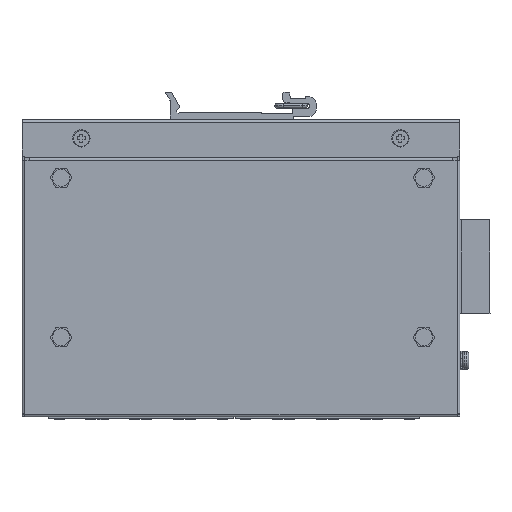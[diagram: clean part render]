
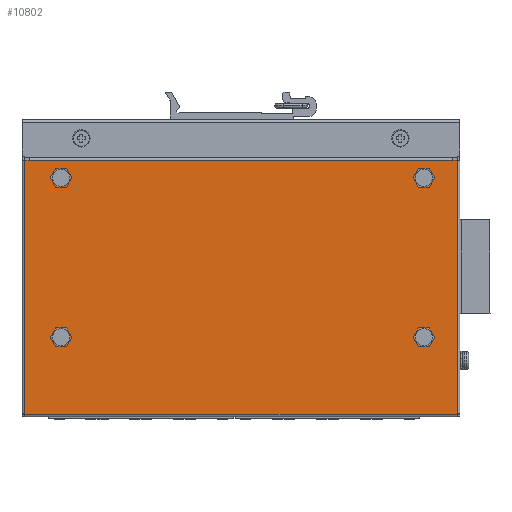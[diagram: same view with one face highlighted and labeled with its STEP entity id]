
A CAD part, front view. The second image highlights one B-rep face of the part: STEP entity #10802.
In plain terms, the highlighted planar face has unit normal (0, -1, 0).
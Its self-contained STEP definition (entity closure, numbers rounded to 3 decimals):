
#5636=DIRECTION('',(0.,0.,-1.));
#5637=VECTOR('',#5636,81.);
#5638=CARTESIAN_POINT('',(-69.2,0.,35.));
#5639=LINE('',#5638,#5637);
#5644=DIRECTION('',(1.,0.,0.));
#5645=VECTOR('',#5644,1.5);
#5646=CARTESIAN_POINT('',(-69.2,0.,35.));
#5647=LINE('',#5646,#5645);
#5648=DIRECTION('',(1.,0.,0.));
#5649=VECTOR('',#5648,1.5);
#5650=CARTESIAN_POINT('',(67.7,0.,35.));
#5651=LINE('',#5650,#5649);
#5652=DIRECTION('',(0.,0.,-1.));
#5653=VECTOR('',#5652,0.2);
#5654=CARTESIAN_POINT('',(69.2,0.,-46.));
#5655=LINE('',#5654,#5653);
#5656=DIRECTION('',(0.,0.,1.));
#5657=VECTOR('',#5656,0.2);
#5658=CARTESIAN_POINT('',(-69.2,0.,-46.2));
#5659=LINE('',#5658,#5657);
#5660=CARTESIAN_POINT('',(-57.5,0.,-21.6));
#5661=DIRECTION('',(0.,-1.,0.));
#5662=DIRECTION('',(0.,0.,-1.));
#5663=AXIS2_PLACEMENT_3D('',#5660,#5661,#5662);
#5665=CARTESIAN_POINT('',(-57.5,0.,-21.6));
#5666=DIRECTION('',(0.,-1.,0.));
#5667=DIRECTION('',(0.,0.,1.));
#5668=AXIS2_PLACEMENT_3D('',#5665,#5666,#5667);
#5670=CARTESIAN_POINT('',(-57.5,0.,29.4));
#5671=DIRECTION('',(0.,-1.,0.));
#5672=DIRECTION('',(0.,0.,-1.));
#5673=AXIS2_PLACEMENT_3D('',#5670,#5671,#5672);
#5675=CARTESIAN_POINT('',(-57.5,0.,29.4));
#5676=DIRECTION('',(0.,-1.,0.));
#5677=DIRECTION('',(0.,0.,1.));
#5678=AXIS2_PLACEMENT_3D('',#5675,#5676,#5677);
#5680=CARTESIAN_POINT('',(58.5,0.,-21.6));
#5681=DIRECTION('',(0.,-1.,0.));
#5682=DIRECTION('',(0.,0.,-1.));
#5683=AXIS2_PLACEMENT_3D('',#5680,#5681,#5682);
#5685=CARTESIAN_POINT('',(58.5,0.,-21.6));
#5686=DIRECTION('',(0.,-1.,0.));
#5687=DIRECTION('',(0.,0.,1.));
#5688=AXIS2_PLACEMENT_3D('',#5685,#5686,#5687);
#5690=CARTESIAN_POINT('',(58.5,0.,29.4));
#5691=DIRECTION('',(0.,-1.,0.));
#5692=DIRECTION('',(0.,0.,-1.));
#5693=AXIS2_PLACEMENT_3D('',#5690,#5691,#5692);
#5695=CARTESIAN_POINT('',(58.5,0.,29.4));
#5696=DIRECTION('',(0.,-1.,0.));
#5697=DIRECTION('',(0.,0.,1.));
#5698=AXIS2_PLACEMENT_3D('',#5695,#5696,#5697);
#5792=DIRECTION('',(0.,0.,1.));
#5793=VECTOR('',#5792,81.);
#5794=CARTESIAN_POINT('',(69.2,0.,-46.));
#5795=LINE('',#5794,#5793);
#6228=DIRECTION('',(-1.,0.,0.));
#6229=VECTOR('',#6228,135.4);
#6230=CARTESIAN_POINT('',(67.7,0.,35.));
#6231=LINE('',#6230,#6229);
#7641=DIRECTION('',(1.,0.,0.));
#7642=VECTOR('',#7641,138.4);
#7643=CARTESIAN_POINT('',(-69.2,0.,-46.2));
#7644=LINE('',#7643,#7642);
#9410=CARTESIAN_POINT('',(-69.2,0.,-46.));
#9412=VERTEX_POINT('',#9410);
#9421=CARTESIAN_POINT('',(-69.2,0.,35.));
#9422=VERTEX_POINT('',#9421);
#9425=CARTESIAN_POINT('',(-67.7,0.,35.));
#9426=VERTEX_POINT('',#9425);
#9427=CARTESIAN_POINT('',(67.7,0.,35.));
#9428=VERTEX_POINT('',#9427);
#9429=CARTESIAN_POINT('',(69.2,0.,35.));
#9430=VERTEX_POINT('',#9429);
#9431=CARTESIAN_POINT('',(69.2,0.,-46.));
#9432=VERTEX_POINT('',#9431);
#9433=CARTESIAN_POINT('',(69.2,0.,-46.2));
#9434=VERTEX_POINT('',#9433);
#9435=CARTESIAN_POINT('',(-69.2,0.,-46.2));
#9436=VERTEX_POINT('',#9435);
#9437=CARTESIAN_POINT('',(-57.5,0.,-24.35));
#9438=CARTESIAN_POINT('',(-57.5,0.,-18.85));
#9439=VERTEX_POINT('',#9437);
#9440=VERTEX_POINT('',#9438);
#9441=CARTESIAN_POINT('',(-57.5,0.,26.65));
#9442=CARTESIAN_POINT('',(-57.5,0.,32.15));
#9443=VERTEX_POINT('',#9441);
#9444=VERTEX_POINT('',#9442);
#9445=CARTESIAN_POINT('',(58.5,0.,-24.35));
#9446=CARTESIAN_POINT('',(58.5,0.,-18.85));
#9447=VERTEX_POINT('',#9445);
#9448=VERTEX_POINT('',#9446);
#9449=CARTESIAN_POINT('',(58.5,0.,26.65));
#9450=CARTESIAN_POINT('',(58.5,0.,32.15));
#9451=VERTEX_POINT('',#9449);
#9452=VERTEX_POINT('',#9450);
#10756=CARTESIAN_POINT('',(0.,0.,0.));
#10757=DIRECTION('',(0.,1.,0.));
#10758=DIRECTION('',(0.,0.,1.));
#10759=AXIS2_PLACEMENT_3D('',#10756,#10757,#10758);
#10760=PLANE('',#10759);
#10762=ORIENTED_EDGE('',*,*,#10761,.T.);
#10764=ORIENTED_EDGE('',*,*,#10763,.F.);
#10766=ORIENTED_EDGE('',*,*,#10765,.T.);
#10768=ORIENTED_EDGE('',*,*,#10767,.F.);
#10770=ORIENTED_EDGE('',*,*,#10769,.T.);
#10772=ORIENTED_EDGE('',*,*,#10771,.F.);
#10774=ORIENTED_EDGE('',*,*,#10773,.T.);
#10775=ORIENTED_EDGE('',*,*,#10746,.F.);
#10776=EDGE_LOOP('',(#10762,#10764,#10766,#10768,#10770,#10772,#10774,#10775));
#10777=FACE_OUTER_BOUND('',#10776,.F.);
#10779=ORIENTED_EDGE('',*,*,#10778,.T.);
#10781=ORIENTED_EDGE('',*,*,#10780,.T.);
#10782=EDGE_LOOP('',(#10779,#10781));
#10783=FACE_BOUND('',#10782,.F.);
#10785=ORIENTED_EDGE('',*,*,#10784,.T.);
#10787=ORIENTED_EDGE('',*,*,#10786,.T.);
#10788=EDGE_LOOP('',(#10785,#10787));
#10789=FACE_BOUND('',#10788,.F.);
#10791=ORIENTED_EDGE('',*,*,#10790,.T.);
#10793=ORIENTED_EDGE('',*,*,#10792,.T.);
#10794=EDGE_LOOP('',(#10791,#10793));
#10795=FACE_BOUND('',#10794,.F.);
#10797=ORIENTED_EDGE('',*,*,#10796,.T.);
#10799=ORIENTED_EDGE('',*,*,#10798,.T.);
#10800=EDGE_LOOP('',(#10797,#10799));
#10801=FACE_BOUND('',#10800,.F.);
#5664=CIRCLE('',#5663,2.75);
#5669=CIRCLE('',#5668,2.75);
#5674=CIRCLE('',#5673,2.75);
#5679=CIRCLE('',#5678,2.75);
#5684=CIRCLE('',#5683,2.75);
#5689=CIRCLE('',#5688,2.75);
#5694=CIRCLE('',#5693,2.75);
#5699=CIRCLE('',#5698,2.75);
#10746=EDGE_CURVE('',#9422,#9412,#5639,.T.);
#10761=EDGE_CURVE('',#9422,#9426,#5647,.T.);
#10763=EDGE_CURVE('',#9428,#9426,#6231,.T.);
#10765=EDGE_CURVE('',#9428,#9430,#5651,.T.);
#10767=EDGE_CURVE('',#9432,#9430,#5795,.T.);
#10769=EDGE_CURVE('',#9432,#9434,#5655,.T.);
#10771=EDGE_CURVE('',#9436,#9434,#7644,.T.);
#10773=EDGE_CURVE('',#9436,#9412,#5659,.T.);
#10778=EDGE_CURVE('',#9439,#9440,#5664,.T.);
#10780=EDGE_CURVE('',#9440,#9439,#5669,.T.);
#10784=EDGE_CURVE('',#9443,#9444,#5674,.T.);
#10786=EDGE_CURVE('',#9444,#9443,#5679,.T.);
#10790=EDGE_CURVE('',#9447,#9448,#5684,.T.);
#10792=EDGE_CURVE('',#9448,#9447,#5689,.T.);
#10796=EDGE_CURVE('',#9451,#9452,#5694,.T.);
#10798=EDGE_CURVE('',#9452,#9451,#5699,.T.);
#10802=ADVANCED_FACE('',(#10777,#10783,#10789,#10795,#10801),#10760,.F.);
